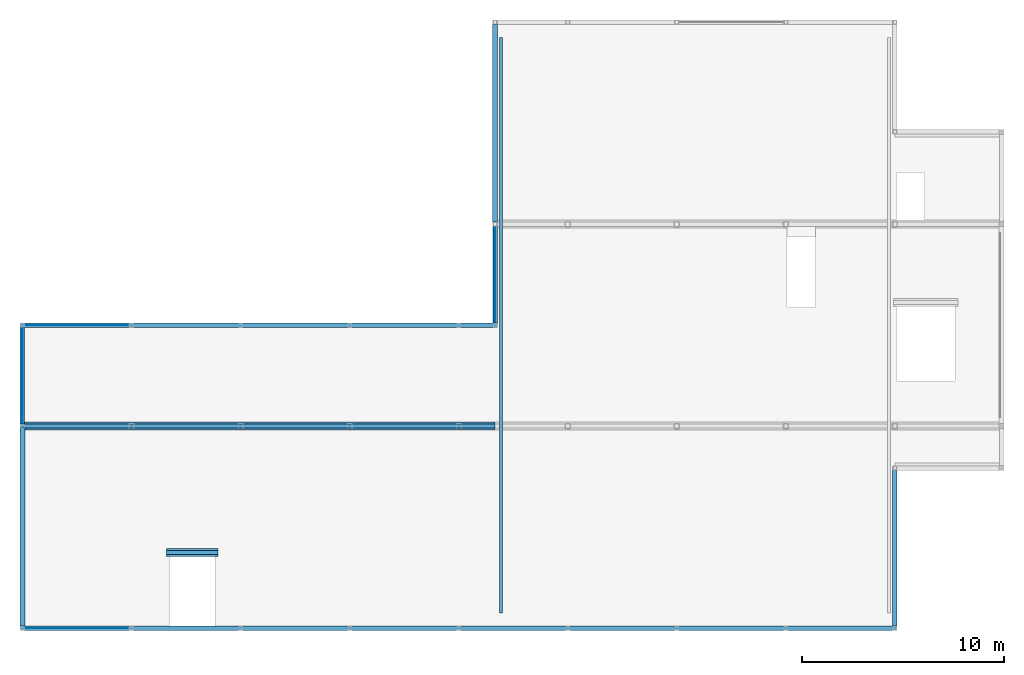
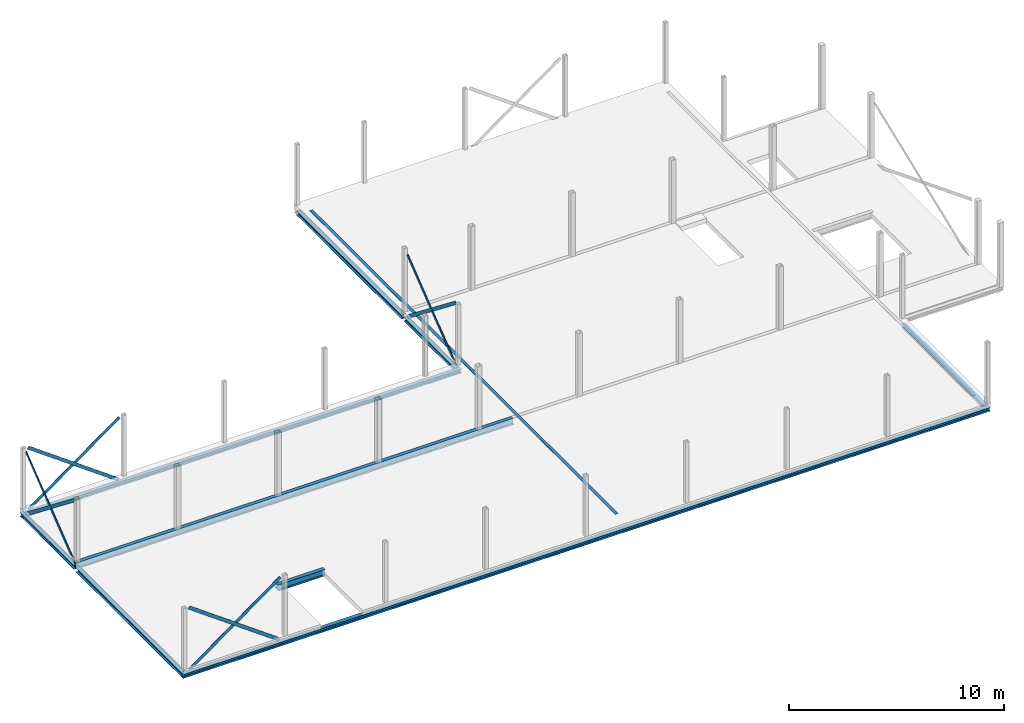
# One storey, part 6 of 7: 18 beams.
"""IFC2X3 building model written with IfcOpenShell, lengths in millimetres."""

from ifc_helpers import new_model, entity, si_unit, converted_unit, derived_unit, direction, frame, frame_2d, origin, origin_2d_with_axis, place, context, subcontext, project, spatial, polyline, circle_curve, parameter, trimmed, segment, composite_curve, rectangle, outline, extrude, boolean, material, type_object, element, save


model = new_model("IFC2X3")

# Units and contexts
model_context = context("Model", 3, precision=0.01, world=origin(), true_north=direction((6.123031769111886e-17, 1.0)))
body_context = subcontext(model_context, "Body", "Model", "MODEL_VIEW")
ifc_project = project(units=[si_unit("LENGTHUNIT", "METRE", prefix="MILLI"), si_unit("AREAUNIT", "SQUARE_METRE"), si_unit("VOLUMEUNIT", "CUBIC_METRE"), converted_unit("PLANEANGLEUNIT", "DEGREE", entity("IfcPlaneAngleMeasure", 0.017453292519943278), si_unit("PLANEANGLEUNIT", "RADIAN"), dimensions=[0, 0, 0, 0, 0, 0, 0]), si_unit("MASSUNIT", "GRAM", prefix="KILO"), derived_unit("MASSDENSITYUNIT", [(si_unit("MASSUNIT", "GRAM", prefix="KILO"), 1), (si_unit("LENGTHUNIT", "METRE"), -3)]), derived_unit("IONCONCENTRATIONUNIT", [(si_unit("MASSUNIT", "GRAM", prefix="KILO"), 1), (si_unit("LENGTHUNIT", "METRE"), -3)]), derived_unit("MOMENTOFINERTIAUNIT", [(si_unit("LENGTHUNIT", "METRE"), 4)]), si_unit("TIMEUNIT", "SECOND"), si_unit("FREQUENCYUNIT", "HERTZ"), si_unit("THERMODYNAMICTEMPERATUREUNIT", "DEGREE_CELSIUS"), derived_unit("THERMALTRANSMITTANCEUNIT", [(si_unit("MASSUNIT", "GRAM", prefix="KILO"), 1), (si_unit("THERMODYNAMICTEMPERATUREUNIT", "KELVIN"), -1), (si_unit("TIMEUNIT", "SECOND"), -3)]), derived_unit("THERMALCONDUCTANCEUNIT", [(si_unit("MASSUNIT", "GRAM", prefix="KILO"), 1), (si_unit("THERMODYNAMICTEMPERATUREUNIT", "KELVIN"), -1), (si_unit("TIMEUNIT", "SECOND"), -3), (si_unit("LENGTHUNIT", "METRE"), 1)]), derived_unit("VOLUMETRICFLOWRATEUNIT", [(si_unit("LENGTHUNIT", "METRE", prefix="DECI"), 3), (si_unit("TIMEUNIT", "SECOND"), -1)]), derived_unit("MASSFLOWRATEUNIT", [(si_unit("MASSUNIT", "GRAM", prefix="KILO"), 1), (si_unit("TIMEUNIT", "SECOND"), -1)]), derived_unit("ROTATIONALFREQUENCYUNIT", [(si_unit("TIMEUNIT", "SECOND"), -1)]), si_unit("ELECTRICCURRENTUNIT", "AMPERE"), si_unit("ELECTRICVOLTAGEUNIT", "VOLT"), si_unit("POWERUNIT", "WATT"), si_unit("FORCEUNIT", "NEWTON", prefix="KILO"), si_unit("ILLUMINANCEUNIT", "LUX"), si_unit("LUMINOUSFLUXUNIT", "LUMEN"), si_unit("LUMINOUSINTENSITYUNIT", "CANDELA"), si_unit("ENERGYUNIT", "JOULE"), derived_unit("USERDEFINED", [(si_unit("MASSUNIT", "GRAM", prefix="KILO"), -1), (si_unit("LENGTHUNIT", "METRE"), -2), (si_unit("TIMEUNIT", "SECOND"), 3), (si_unit("LUMINOUSFLUXUNIT", "LUMEN"), 1)]), derived_unit("USERDEFINED", [(si_unit("MASSUNIT", "GRAM", prefix="KILO"), 1), (si_unit("TIMEUNIT", "SECOND"), -3), (si_unit("LENGTHUNIT", "METRE"), 3), (si_unit("ELECTRICCURRENTUNIT", "AMPERE"), -2)]), derived_unit("SOUNDPOWERUNIT", [(si_unit("MASSUNIT", "GRAM", prefix="KILO"), 1), (si_unit("TIMEUNIT", "SECOND"), -3), (si_unit("LENGTHUNIT", "METRE"), 2)]), derived_unit("SOUNDPRESSUREUNIT", [(si_unit("MASSUNIT", "GRAM", prefix="KILO"), 1), (si_unit("LENGTHUNIT", "METRE"), -1), (si_unit("TIMEUNIT", "SECOND"), -2)]), derived_unit("LINEARVELOCITYUNIT", [(si_unit("LENGTHUNIT", "METRE"), 1), (si_unit("TIMEUNIT", "SECOND"), -1)]), si_unit("PRESSUREUNIT", "PASCAL"), derived_unit("USERDEFINED", [(si_unit("MASSUNIT", "GRAM", prefix="KILO"), 1), (si_unit("LENGTHUNIT", "METRE"), -2), (si_unit("TIMEUNIT", "SECOND"), -2)]), derived_unit("LINEARFORCEUNIT", [(si_unit("MASSUNIT", "GRAM", prefix="KILO"), 1), (si_unit("TIMEUNIT", "SECOND"), -2)]), derived_unit("PLANARFORCEUNIT", [(si_unit("MASSUNIT", "GRAM", prefix="KILO"), 1), (si_unit("LENGTHUNIT", "METRE"), -1), (si_unit("TIMEUNIT", "SECOND"), -2)]), derived_unit("SPECIFICHEATCAPACITYUNIT", [(si_unit("THERMODYNAMICTEMPERATUREUNIT", "KELVIN"), -1), (si_unit("LENGTHUNIT", "METRE"), 2), (si_unit("TIMEUNIT", "SECOND"), -2)]), derived_unit("HEATFLUXDENSITYUNIT", [(si_unit("MASSUNIT", "GRAM", prefix="KILO"), 1), (si_unit("TIMEUNIT", "SECOND"), -3)]), derived_unit("HEATINGVALUEUNIT", [(si_unit("LENGTHUNIT", "METRE"), 2), (si_unit("TIMEUNIT", "SECOND"), -2)]), derived_unit("VAPORPERMEABILITYUNIT", [(si_unit("LENGTHUNIT", "METRE"), -1), (si_unit("TIMEUNIT", "SECOND"), 1)]), derived_unit("DYNAMICVISCOSITYUNIT", [(si_unit("MASSUNIT", "GRAM", prefix="KILO"), 1), (si_unit("TIMEUNIT", "SECOND"), -1), (si_unit("LENGTHUNIT", "METRE"), -1)]), derived_unit("THERMALEXPANSIONCOEFFICIENTUNIT", [(si_unit("THERMODYNAMICTEMPERATUREUNIT", "KELVIN"), -1)]), derived_unit("MODULUSOFELASTICITYUNIT", [(si_unit("MASSUNIT", "GRAM", prefix="KILO"), 1), (si_unit("LENGTHUNIT", "METRE"), -1), (si_unit("TIMEUNIT", "SECOND"), -2)]), derived_unit("ISOTHERMALMOISTURECAPACITYUNIT", [(si_unit("MASSUNIT", "GRAM", prefix="KILO"), -1), (si_unit("LENGTHUNIT", "METRE"), 3)]), derived_unit("MOISTUREDIFFUSIVITYUNIT", [(si_unit("TIMEUNIT", "SECOND"), -1), (si_unit("LENGTHUNIT", "METRE"), 2)]), derived_unit("MASSPERLENGTHUNIT", [(si_unit("MASSUNIT", "GRAM", prefix="KILO"), 1), (si_unit("LENGTHUNIT", "METRE"), -1)]), derived_unit("THERMALRESISTANCEUNIT", [(si_unit("MASSUNIT", "GRAM", prefix="KILO"), -1), (si_unit("TIMEUNIT", "SECOND"), 3), (si_unit("THERMODYNAMICTEMPERATUREUNIT", "KELVIN"), 1)]), derived_unit("ACCELERATIONUNIT", [(si_unit("LENGTHUNIT", "METRE"), 1), (si_unit("TIMEUNIT", "SECOND"), -2)]), derived_unit("ANGULARVELOCITYUNIT", [(si_unit("TIMEUNIT", "SECOND"), -1), (si_unit("PLANEANGLEUNIT", "RADIAN"), 1)]), derived_unit("LINEARSTIFFNESSUNIT", [(si_unit("MASSUNIT", "GRAM", prefix="KILO"), 1), (si_unit("TIMEUNIT", "SECOND"), -2)]), derived_unit("WARPINGCONSTANTUNIT", [(si_unit("LENGTHUNIT", "METRE"), 6)]), derived_unit("LINEARMOMENTUNIT", [(si_unit("MASSUNIT", "GRAM", prefix="KILO"), 1), (si_unit("LENGTHUNIT", "METRE"), 1), (si_unit("TIMEUNIT", "SECOND"), -2)]), derived_unit("TORQUEUNIT", [(si_unit("MASSUNIT", "GRAM", prefix="KILO"), 1), (si_unit("LENGTHUNIT", "METRE"), 2), (si_unit("TIMEUNIT", "SECOND"), -2)])], contexts=[model_context])

# Site, building, storey
site_placement = place(None, origin())
site = spatial("IfcSite", under=ifc_project, at=site_placement, Name="Default", CompositionType="ELEMENT")
building_placement = place(site_placement, origin())
building = spatial("IfcBuilding", under=site, at=building_placement, CompositionType="ELEMENT")
storey_placement = place(building_placement, frame((0.0, 0.0, 4000.0)))
storey = spatial("IfcBuildingStorey", under=building, at=storey_placement, Name="01 eerste verdieping", CompositionType="ELEMENT", Elevation=4000.0000000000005)

# Beams
ifc_material = material(Name="VRI_staal")
beam_type_1 = type_object("IfcBeamType", Name="28_SFR_VRI_balk_staal_H:HEB220", PredefinedType="NOTDEFINED")
beam_1_placement = place(storey_placement, frame((10000.0, 25000.0, -345.0)))
element("IfcBeam", 1, at=beam_1_placement, inside=storey, type_object=beam_type_1, material=ifc_material, Name="28_SFR_VRI_balk_staal_H:HEB220", ObjectType="28_SFR_VRI_balk_staal_H:HEB220", context=body_context, shape_type="SweptSolid", body=[
    extrude(outline(composite_curve([segment(polyline([(94.0, -110.0), (110.0, -110.0)]), True, "CONTINUOUS"), segment(polyline([(110.0, -110.0), (110.0, 110.0)]), True, "CONTINUOUS"), segment(polyline([(110.0, 110.0), (94.0, 110.0)]), True, "CONTINUOUS"), segment(polyline([(94.0, 110.0), (94.0, 22.75000000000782)]), True, "CONTINUOUS"), segment(trimmed(circle_curve(frame_2d((76.0, 22.75000000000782), x_axis=(1.0, 0.0)), 18.0000000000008), [parameter(270.00000000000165)], [parameter(0.0)], True, "PARAMETER"), False, "CONTINUOUS"), segment(polyline([(76.0, 4.750000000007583), (-76.0, 4.750000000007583)]), True, "CONTINUOUS"), segment(trimmed(circle_curve(frame_2d((-76.0, 22.75000000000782), x_axis=(0.0, -1.0)), 18.00000000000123), [parameter(270.00000000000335)], [parameter(0.0)], True, "PARAMETER"), False, "CONTINUOUS"), segment(polyline([(-94.0, 22.75000000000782), (-94.0, 110.0)]), True, "CONTINUOUS"), segment(polyline([(-94.0, 110.0), (-110.0, 110.0)]), True, "CONTINUOUS"), segment(polyline([(-110.0, 110.0), (-110.0, -110.0)]), True, "CONTINUOUS"), segment(polyline([(-110.0, -110.0), (-94.0, -110.0)]), True, "CONTINUOUS"), segment(polyline([(-94.0, -110.0), (-94.0, -22.74999999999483)]), True, "CONTINUOUS"), segment(trimmed(circle_curve(frame_2d((-76.0, -22.749999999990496), x_axis=(-1.0, 0.0)), 18.000000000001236), [parameter(270.00000000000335)], [parameter(0.0)], True, "PARAMETER"), False, "CONTINUOUS"), segment(polyline([(-76.0, -4.749999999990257), (76.0, -4.749999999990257)]), True, "CONTINUOUS"), segment(trimmed(circle_curve(frame_2d((76.0, -22.749999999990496), x_axis=(0.0, 1.0)), 18.000000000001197), [parameter(270.00000000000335)], [parameter(0.0)], True, "PARAMETER"), False, "CONTINUOUS"), segment(polyline([(94.0, -22.749999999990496), (94.0, -110.0)]), True, "CONTINUOUS")], self_intersect=False)), frame((-120.0, 0.0, -110.0), z_axis=(1.0, 0.0, 0.0), x_axis=(0.0, 0.0, -1.0)), (0.0, 0.0, 1.0), 23639.999999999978),
])
beam_2_placement = place(storey_placement, frame((10000.0, 10000.0, -345.0)))
element("IfcBeam", 2, at=beam_2_placement, inside=storey, type_object=beam_type_1, material=ifc_material, Name="28_SFR_VRI_balk_staal_H:HEB220", ObjectType="28_SFR_VRI_balk_staal_H:HEB220", context=body_context, shape_type="SweptSolid", body=[
    extrude(outline(composite_curve([segment(polyline([(94.0, -110.0), (110.0, -110.0)]), True, "CONTINUOUS"), segment(polyline([(110.0, -110.0), (110.0, 110.0)]), True, "CONTINUOUS"), segment(polyline([(110.0, 110.0), (94.0, 110.0)]), True, "CONTINUOUS"), segment(polyline([(94.0, 110.0), (94.0, 22.749999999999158)]), True, "CONTINUOUS"), segment(trimmed(circle_curve(frame_2d((76.0, 22.750000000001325), x_axis=(1.0, 0.0)), 18.00000000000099), [parameter(270.0000000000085)], [parameter(0.0)], True, "PARAMETER"), False, "CONTINUOUS"), segment(polyline([(76.0, 4.74999999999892), (-76.0, 4.74999999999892)]), True, "CONTINUOUS"), segment(trimmed(circle_curve(frame_2d((-76.0, 22.750000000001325), x_axis=(0.0, -1.0)), 18.00000000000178), [parameter(270.000000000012)], [parameter(0.0)], True, "PARAMETER"), False, "CONTINUOUS"), segment(polyline([(-94.0, 22.749999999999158), (-94.0, 110.0)]), True, "CONTINUOUS"), segment(polyline([(-94.0, 110.0), (-110.0, 110.0)]), True, "CONTINUOUS"), segment(polyline([(-110.0, 110.0), (-110.0, -110.0)]), True, "CONTINUOUS"), segment(polyline([(-110.0, -110.0), (-94.0, -110.0)]), True, "CONTINUOUS"), segment(polyline([(-94.0, -110.0), (-94.0, -22.750000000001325)]), True, "CONTINUOUS"), segment(trimmed(circle_curve(frame_2d((-76.0, -22.750000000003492), x_axis=(-1.0, 0.0)), 18.000000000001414), [parameter(270.00000000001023)], [parameter(0.0)], True, "PARAMETER"), False, "CONTINUOUS"), segment(polyline([(-76.0, -4.750000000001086), (76.0, -4.750000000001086)]), True, "CONTINUOUS"), segment(trimmed(circle_curve(frame_2d((76.0, -22.750000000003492), x_axis=(0.0, 1.0)), 18.000000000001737), [parameter(270.000000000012)], [parameter(0.0)], True, "PARAMETER"), False, "CONTINUOUS"), segment(polyline([(94.0, -22.750000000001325), (94.0, -110.0)]), True, "CONTINUOUS")], self_intersect=False)), frame((-120.0, 0.0, -110.0), z_axis=(1.0, 0.0, 0.0), x_axis=(0.0, 0.0, -1.0)), (0.0, 0.0, 1.0), 43429.99999999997),
])
beam_3_placement = place(storey_placement, frame((53200.0, 17922.635463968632, -345.0), z_axis=(0.0, 0.0, 1.0), x_axis=(0.0, -1.0, 0.0)))
element("IfcBeam", 3, at=beam_3_placement, inside=storey, type_object=beam_type_1, material=ifc_material, Name="28_SFR_VRI_balk_staal_H:HEB220", ObjectType="28_SFR_VRI_balk_staal_H:HEB220", context=body_context, shape_type="SweptSolid", body=[
    extrude(outline(composite_curve([segment(polyline([(94.0, -110.0), (110.0, -110.0)]), True, "CONTINUOUS"), segment(polyline([(110.0, -110.0), (110.0, 110.0)]), True, "CONTINUOUS"), segment(polyline([(110.0, 110.0), (94.0, 110.0)]), True, "CONTINUOUS"), segment(polyline([(94.0, 110.0), (94.0, 22.749999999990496)]), True, "CONTINUOUS"), segment(trimmed(circle_curve(frame_2d((76.0, 22.749999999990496), x_axis=(1.0, 0.0)), 17.999999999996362), [parameter(269.99999999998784)], [parameter(0.0)], True, "PARAMETER"), False, "CONTINUOUS"), segment(polyline([(76.0, 4.749999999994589), (-76.0, 4.749999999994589)]), True, "CONTINUOUS"), segment(trimmed(circle_curve(frame_2d((-76.0, 22.749999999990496), x_axis=(0.0, -1.0)), 17.9999999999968), [parameter(269.9999999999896)], [parameter(0.0)], True, "PARAMETER"), False, "CONTINUOUS"), segment(polyline([(-94.0, 22.749999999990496), (-94.0, 110.0)]), True, "CONTINUOUS"), segment(polyline([(-94.0, 110.0), (-110.0, 110.0)]), True, "CONTINUOUS"), segment(polyline([(-110.0, 110.0), (-110.0, -110.0)]), True, "CONTINUOUS"), segment(polyline([(-110.0, -110.0), (-94.0, -110.0)]), True, "CONTINUOUS"), segment(polyline([(-94.0, -110.0), (-94.0, -22.750000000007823)]), True, "CONTINUOUS"), segment(trimmed(circle_curve(frame_2d((-76.0, -22.750000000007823), x_axis=(-1.0, 0.0)), 17.9999999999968), [parameter(269.9999999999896)], [parameter(0.0)], True, "PARAMETER"), False, "CONTINUOUS"), segment(polyline([(-76.0, -4.750000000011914), (76.0, -4.750000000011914)]), True, "CONTINUOUS"), segment(trimmed(circle_curve(frame_2d((76.0, -22.750000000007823), x_axis=(0.0, 1.0)), 17.999999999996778), [parameter(269.9999999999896)], [parameter(0.0)], True, "PARAMETER"), False, "CONTINUOUS"), segment(polyline([(94.0, -22.750000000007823), (94.0, -110.0)]), True, "CONTINUOUS")], self_intersect=False)), frame((97.63546399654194, 0.0, -110.0), z_axis=(1.0, 0.0, 0.0), x_axis=(0.0, 0.0, -1.0)), (0.0, 0.0, 1.0), 7714.9999999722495),
])
beam_4_placement = place(storey_placement, frame((33400.0, 30000.0, -345.0), z_axis=(0.0, 0.0, 1.0), x_axis=(0.0, -1.0, 0.0)))
element("IfcBeam", 4, at=beam_4_placement, inside=storey, type_object=beam_type_1, material=ifc_material, Name="28_SFR_VRI_balk_staal_H:HEB220", ObjectType="28_SFR_VRI_balk_staal_H:HEB220", context=body_context, shape_type="SweptSolid", body=[
    extrude(outline(composite_curve([segment(polyline([(94.0, -110.0), (110.0, -110.0)]), True, "CONTINUOUS"), segment(polyline([(110.0, -110.0), (110.0, 110.0)]), True, "CONTINUOUS"), segment(polyline([(110.0, 110.0), (94.0, 110.0)]), True, "CONTINUOUS"), segment(polyline([(94.0, 110.0), (94.0, 22.749999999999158)]), True, "CONTINUOUS"), segment(trimmed(circle_curve(frame_2d((76.0, 22.749999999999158), x_axis=(1.0, 0.0)), 18.0000000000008), [parameter(270.00000000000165)], [parameter(0.0)], True, "PARAMETER"), False, "CONTINUOUS"), segment(polyline([(76.0, 4.74999999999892), (-76.0, 4.74999999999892)]), True, "CONTINUOUS"), segment(trimmed(circle_curve(frame_2d((-76.0, 22.749999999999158), x_axis=(0.0, -1.0)), 18.00000000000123), [parameter(270.00000000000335)], [parameter(0.0)], True, "PARAMETER"), False, "CONTINUOUS"), segment(polyline([(-94.0, 22.749999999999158), (-94.0, 110.0)]), True, "CONTINUOUS"), segment(polyline([(-94.0, 110.0), (-110.0, 110.0)]), True, "CONTINUOUS"), segment(polyline([(-110.0, 110.0), (-110.0, -110.0)]), True, "CONTINUOUS"), segment(polyline([(-110.0, -110.0), (-94.0, -110.0)]), True, "CONTINUOUS"), segment(polyline([(-94.0, -110.0), (-94.0, -22.74999999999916)]), True, "CONTINUOUS"), segment(trimmed(circle_curve(frame_2d((-76.0, -22.74999999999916), x_axis=(-1.0, 0.0)), 18.000000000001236), [parameter(270.00000000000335)], [parameter(0.0)], True, "PARAMETER"), False, "CONTINUOUS"), segment(polyline([(-76.0, -4.74999999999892), (76.0, -4.74999999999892)]), True, "CONTINUOUS"), segment(trimmed(circle_curve(frame_2d((76.0, -22.74999999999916), x_axis=(0.0, 1.0)), 18.000000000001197), [parameter(270.00000000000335)], [parameter(0.0)], True, "PARAMETER"), False, "CONTINUOUS"), segment(polyline([(94.0, -22.74999999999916), (94.0, -110.0)]), True, "CONTINUOUS")], self_intersect=False)), frame((100.0, 0.0, -110.0), z_axis=(1.0, 0.0, 0.0), x_axis=(0.0, 0.0, -1.0)), (0.0, 0.0, 1.0), 4790.000000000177),
])
beam_5_placement = place(storey_placement, frame((10000.0, 25000.0, -345.0), z_axis=(0.0, 0.0, 1.0), x_axis=(0.0, -1.0, 0.0)))
element("IfcBeam", 5, at=beam_5_placement, inside=storey, type_object=beam_type_1, material=ifc_material, Name="28_SFR_VRI_balk_staal_H:HEB220", ObjectType="28_SFR_VRI_balk_staal_H:HEB220", context=body_context, shape_type="SweptSolid", body=[
    extrude(outline(composite_curve([segment(polyline([(94.0, -110.0), (110.0, -110.0)]), True, "CONTINUOUS"), segment(polyline([(110.0, -110.0), (110.0, 110.0)]), True, "CONTINUOUS"), segment(polyline([(110.0, 110.0), (94.0, 110.0)]), True, "CONTINUOUS"), segment(polyline([(94.0, 110.0), (94.0, 22.750000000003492)]), True, "CONTINUOUS"), segment(trimmed(circle_curve(frame_2d((76.0, 22.750000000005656), x_axis=(1.0, 0.0)), 18.00000000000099), [parameter(270.0000000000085)], [parameter(0.0)], True, "PARAMETER"), False, "CONTINUOUS"), segment(polyline([(76.0, 4.750000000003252), (-76.0, 4.750000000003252)]), True, "CONTINUOUS"), segment(trimmed(circle_curve(frame_2d((-76.0, 22.750000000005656), x_axis=(0.0, -1.0)), 18.00000000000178), [parameter(270.000000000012)], [parameter(0.0)], True, "PARAMETER"), False, "CONTINUOUS"), segment(polyline([(-94.0, 22.750000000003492), (-94.0, 110.0)]), True, "CONTINUOUS"), segment(polyline([(-94.0, 110.0), (-110.0, 110.0)]), True, "CONTINUOUS"), segment(polyline([(-110.0, 110.0), (-110.0, -110.0)]), True, "CONTINUOUS"), segment(polyline([(-110.0, -110.0), (-94.0, -110.0)]), True, "CONTINUOUS"), segment(polyline([(-94.0, -110.0), (-94.0, -22.749999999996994)]), True, "CONTINUOUS"), segment(trimmed(circle_curve(frame_2d((-76.0, -22.749999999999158), x_axis=(-1.0, 0.0)), 18.000000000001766), [parameter(270.000000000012)], [parameter(0.0)], True, "PARAMETER"), False, "CONTINUOUS"), segment(polyline([(-76.0, -4.749999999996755), (76.0, -4.749999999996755)]), True, "CONTINUOUS"), segment(trimmed(circle_curve(frame_2d((76.0, -22.749999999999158), x_axis=(0.0, 1.0)), 18.000000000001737), [parameter(270.000000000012)], [parameter(0.0)], True, "PARAMETER"), False, "CONTINUOUS"), segment(polyline([(94.0, -22.749999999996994), (94.0, -110.0)]), True, "CONTINUOUS")], self_intersect=False)), frame((110.0, 0.0, -110.0), z_axis=(1.0, 0.0, 0.0), x_axis=(0.0, 0.0, -1.0)), (0.0, 0.0, 1.0), 4789.999999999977),
])
beam_type_2 = type_object("IfcBeamType", Name="28_SFR_VRI_balk_staal_THQ:THQ265x6-190x20-400x20", PredefinedType="NOTDEFINED")
beam_6_placement = place(storey_placement, frame((10000.0, 20000.0, -80.0)))
element("IfcBeam", 6, at=beam_6_placement, inside=storey, type_object=beam_type_2, material=ifc_material, Name="28_SFR_VRI_balk_staal_THQ:THQ265x6-190x20-400x20", ObjectType="28_SFR_VRI_balk_staal_THQ:THQ265x6-190x20-400x20", context=body_context, shape_type="SweptSolid", body=[
    boolean("DIFFERENCE", extrude(outline(polyline([(61.250000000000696, -200.0), (81.24999999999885, -200.0), (81.24999999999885, 200.0), (61.24999999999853, 200.0), (61.24999999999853, 101.0), (-203.74999999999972, 101.0), (-203.74999999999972, -101.0), (61.250000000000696, -101.0), (61.250000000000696, -200.0)])), frame((-120.0, 0.0, -203.75000000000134), z_axis=(1.0, 0.0, 0.0), x_axis=(0.0, 0.0, -1.0)), (0.0, 0.0, 1.0), 23519.999999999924), extrude(rectangle(XDim=245.00000000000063, YDim=190.0000000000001, at=frame_2d((0.0, 0.0), x_axis=(0.0, 1.0))), frame((23400.0, 0.0, -142.50000000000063), z_axis=(-1.0, 0.0, 0.0), x_axis=(0.0, 1.0, 0.0)), (0.0, 0.0, 1.0), 23519.999999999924)),
])
beam_type_3 = type_object("IfcBeamType", Name="28_SFR_VRI_balk_staal_THQ:THQ265x8-190x20-400x20", PredefinedType="NOTDEFINED")
beam_7_placement = place(storey_placement, frame((17200.0, 13753.0, -80.0)))
element("IfcBeam", 7, at=beam_7_placement, inside=storey, type_object=beam_type_3, material=ifc_material, Name="28_SFR_VRI_balk_staal_THQ:THQ265x8-190x20-400x20", ObjectType="28_SFR_VRI_balk_staal_THQ:THQ265x8-190x20-400x20", context=body_context, shape_type="SweptSolid", body=[
    boolean("DIFFERENCE", extrude(outline(polyline([(61.250000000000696, -200.0), (81.24999999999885, -200.0), (81.24999999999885, 200.0), (61.24999999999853, 200.0), (61.24999999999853, 103.0), (-203.74999999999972, 103.0), (-203.74999999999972, -103.0), (61.250000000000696, -103.0), (61.250000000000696, -200.0)])), frame((-75.0, 0.0, -203.75000000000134), z_axis=(1.0, 0.0, 0.0), x_axis=(0.0, 0.0, -1.0)), (0.0, 0.0, 1.0), 2549.9999999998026), extrude(rectangle(XDim=245.00000000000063, YDim=190.0000000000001, at=frame_2d((0.0, 0.0), x_axis=(0.0, 1.0))), frame((2475.0, 0.0, -142.50000000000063), z_axis=(-1.0, 0.0, 0.0), x_axis=(0.0, 1.0, 0.0)), (0.0, 0.0, 1.0), 2549.9999999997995)),
])
beam_type_4 = type_object("IfcBeamType", Name="28_SFR_VRI_balk_staal_H:HEB240", PredefinedType="NOTDEFINED")
beam_8_placement = place(storey_placement, frame((33400.0, 40000.0, -345.0), z_axis=(0.0, 0.0, 1.0), x_axis=(0.0, -1.0, 0.0)))
element("IfcBeam", 8, at=beam_8_placement, inside=storey, type_object=beam_type_4, material=ifc_material, Name="28_SFR_VRI_balk_staal_H:HEB240", ObjectType="28_SFR_VRI_balk_staal_H:HEB240", context=body_context, shape_type="SweptSolid", body=[
    extrude(outline(composite_curve([segment(polyline([(103.0, -120.0), (120.0, -120.0)]), True, "CONTINUOUS"), segment(polyline([(120.0, -120.0), (120.0, 120.0)]), True, "CONTINUOUS"), segment(polyline([(120.0, 120.0), (103.0, 120.0)]), True, "CONTINUOUS"), segment(polyline([(103.0, 120.0), (103.0, 26.0)]), True, "CONTINUOUS"), segment(trimmed(circle_curve(frame_2d((82.0, 26.0), x_axis=(1.0, 0.0)), 21.000000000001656), [parameter(270.0000000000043)], [parameter(0.0)], True, "PARAMETER"), False, "CONTINUOUS"), segment(polyline([(82.0, 5.0), (-82.0, 5.0)]), True, "CONTINUOUS"), segment(trimmed(circle_curve(frame_2d((-82.0, 26.0), x_axis=(0.0, -1.0)), 21.00000000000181), [parameter(270.0000000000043)], [parameter(0.0)], True, "PARAMETER"), False, "CONTINUOUS"), segment(polyline([(-103.0, 26.0), (-103.0, 120.0)]), True, "CONTINUOUS"), segment(polyline([(-103.0, 120.0), (-120.0, 120.0)]), True, "CONTINUOUS"), segment(polyline([(-120.0, 120.0), (-120.0, -120.0)]), True, "CONTINUOUS"), segment(polyline([(-120.0, -120.0), (-103.0, -120.0)]), True, "CONTINUOUS"), segment(polyline([(-103.0, -120.0), (-103.0, -26.0)]), True, "CONTINUOUS"), segment(trimmed(circle_curve(frame_2d((-82.0, -26.0), x_axis=(-1.0, 0.0)), 21.000000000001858), [parameter(270.0000000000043)], [parameter(0.0)], True, "PARAMETER"), False, "CONTINUOUS"), segment(polyline([(-82.0, -5.0), (82.0, -5.0)]), True, "CONTINUOUS"), segment(trimmed(circle_curve(frame_2d((82.0, -26.0), x_axis=(0.0, 1.0)), 20.999999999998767), [parameter(269.999999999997)], [parameter(0.0)], True, "PARAMETER"), False, "CONTINUOUS"), segment(polyline([(103.0, -26.0), (103.0, -120.0)]), True, "CONTINUOUS")], self_intersect=False)), frame((110.0, 0.0, -120.0), z_axis=(1.0, 0.0, 0.0), x_axis=(0.0, 0.0, -1.0)), (0.0, 0.0, 1.0), 9790.000000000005),
])
beam_9_placement = place(storey_placement, frame((10000.0, 10000.0, -345.0), z_axis=(0.0, 0.0, 1.0), x_axis=(0.0, 1.0, 0.0)))
element("IfcBeam", 9, at=beam_9_placement, inside=storey, type_object=beam_type_4, material=ifc_material, Name="28_SFR_VRI_balk_staal_H:HEB240", ObjectType="28_SFR_VRI_balk_staal_H:HEB240", context=body_context, shape_type="SweptSolid", body=[
    extrude(outline(composite_curve([segment(polyline([(103.0, -120.0), (120.0, -120.0)]), True, "CONTINUOUS"), segment(polyline([(120.0, -120.0), (120.0, 120.0)]), True, "CONTINUOUS"), segment(polyline([(120.0, 120.0), (103.0, 120.0)]), True, "CONTINUOUS"), segment(polyline([(103.0, 120.0), (103.0, 26.0)]), True, "CONTINUOUS"), segment(trimmed(circle_curve(frame_2d((82.0, 26.0), x_axis=(1.0, 0.0)), 20.999999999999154), [parameter(269.999999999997)], [parameter(0.0)], True, "PARAMETER"), False, "CONTINUOUS"), segment(polyline([(82.0, 5.0), (-82.0, 5.0)]), True, "CONTINUOUS"), segment(trimmed(circle_curve(frame_2d((-82.0, 26.0), x_axis=(0.0, -1.0)), 20.999999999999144), [parameter(269.999999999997)], [parameter(0.0)], True, "PARAMETER"), False, "CONTINUOUS"), segment(polyline([(-103.0, 26.0), (-103.0, 120.0)]), True, "CONTINUOUS"), segment(polyline([(-103.0, 120.0), (-120.0, 120.0)]), True, "CONTINUOUS"), segment(polyline([(-120.0, 120.0), (-120.0, -120.0)]), True, "CONTINUOUS"), segment(polyline([(-120.0, -120.0), (-103.0, -120.0)]), True, "CONTINUOUS"), segment(polyline([(-103.0, -120.0), (-103.0, -26.0)]), True, "CONTINUOUS"), segment(trimmed(circle_curve(frame_2d((-82.0, -26.0), x_axis=(-1.0, 0.0)), 20.99999999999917), [parameter(269.999999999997)], [parameter(0.0)], True, "PARAMETER"), False, "CONTINUOUS"), segment(polyline([(-82.0, -5.0), (82.0, -5.0)]), True, "CONTINUOUS"), segment(trimmed(circle_curve(frame_2d((82.0, -26.0), x_axis=(0.0, 1.0)), 20.999999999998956), [parameter(269.999999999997)], [parameter(0.0)], True, "PARAMETER"), False, "CONTINUOUS"), segment(polyline([(103.0, -26.0), (103.0, -120.0)]), True, "CONTINUOUS")], self_intersect=False)), frame((110.0, 0.0, -120.0), z_axis=(1.0, 0.0, 0.0), x_axis=(0.0, 0.0, -1.0)), (0.0, 0.0, 1.0), 9790.000000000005),
])
beam_type_5 = type_object("IfcBeamType", Name="28_SFR_VRI_balk_staal_strip:10x180", PredefinedType="NOTDEFINED")
beam_10_placement = place(storey_placement, frame((10000.0, 20000.0, 3445.0), z_axis=(0.0, 0.6160108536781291, 0.7877376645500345), x_axis=(0.0, 0.7877376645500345, -0.6160108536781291)))
element("IfcBeam", 10, at=beam_10_placement, inside=storey, type_object=beam_type_5, material=ifc_material, Name="28_SFR_VRI_balk_staal_strip:10x180", ObjectType="28_SFR_VRI_balk_staal_strip:10x180", context=body_context, shape_type="SweptSolid", body=[
    extrude(rectangle(XDim=179.99999999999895, YDim=9.999999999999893, at=frame_2d((-2.6147972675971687e-12, -1.0831335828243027e-12), x_axis=(1.0, 0.0))), frame((300.0, 0.0, 0.0), z_axis=(1.0, 0.0, 0.0), x_axis=(0.0, 0.0, -1.0)), (0.0, 0.0, 1.0), 5747.290760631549),
])
beam_11_placement = place(storey_placement, frame((10000.0, 25000.0, 3445.0), z_axis=(0.0, -0.6160108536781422, 0.7877376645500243), x_axis=(0.0, -0.7877376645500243, -0.6160108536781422)))
element("IfcBeam", 11, at=beam_11_placement, inside=storey, type_object=beam_type_5, material=ifc_material, Name="28_SFR_VRI_balk_staal_strip:10x180", ObjectType="28_SFR_VRI_balk_staal_strip:10x180", context=body_context, shape_type="SweptSolid", body=[
    extrude(rectangle(XDim=180.00000000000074, YDim=9.999999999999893, at=frame_2d((0.0, -1.0831335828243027e-12), x_axis=(1.0, 0.0))), frame((300.0, 0.0, 0.0), z_axis=(1.0, 0.0, 0.0), x_axis=(0.0, 0.0, -1.0)), (0.0, 0.0, 1.0), 5747.2907606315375),
])
beam_12_placement = place(storey_placement, frame((10000.0, 25000.0, 3455.0), z_axis=(0.5864758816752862, 0.0, 0.809966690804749), x_axis=(0.809966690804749, 0.0, -0.5864758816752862)))
element("IfcBeam", 12, at=beam_12_placement, inside=storey, type_object=beam_type_5, material=ifc_material, Name="28_SFR_VRI_balk_staal_strip:10x180", ObjectType="28_SFR_VRI_balk_staal_strip:10x180", context=body_context, shape_type="SweptSolid", body=[
    extrude(rectangle(XDim=180.00000000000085, YDim=10.000000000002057, at=frame_2d((1.0800249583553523e-12, -2.1658230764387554e-12), x_axis=(1.0, 0.0))), frame((300.0, 0.0, 0.0), z_axis=(1.0, 0.0, 0.0), x_axis=(0.0, 0.0, -1.0)), (0.0, 0.0, 1.0), 6016.9408276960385),
])
beam_13_placement = place(storey_placement, frame((15400.0, 25000.0, 3455.0), z_axis=(-0.5864758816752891, 0.0, 0.8099666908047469), x_axis=(-0.8099666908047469, 0.0, -0.5864758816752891)))
element("IfcBeam", 13, at=beam_13_placement, inside=storey, type_object=beam_type_5, material=ifc_material, Name="28_SFR_VRI_balk_staal_strip:10x180", ObjectType="28_SFR_VRI_balk_staal_strip:10x180", context=body_context, shape_type="SweptSolid", body=[
    extrude(rectangle(XDim=180.00000000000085, YDim=9.999999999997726, at=frame_2d((1.0729195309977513e-12, 0.0), x_axis=(1.0, 0.0))), frame((300.0, 0.0, 0.0), z_axis=(1.0, 0.0, 0.0), x_axis=(0.0, 0.0, -1.0)), (0.0, 0.0, 1.0), 6016.940827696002),
])
beam_14_placement = place(storey_placement, frame((10000.0, 10000.0, 3455.0), z_axis=(0.5864758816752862, 0.0, 0.809966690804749), x_axis=(0.809966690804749, 0.0, -0.5864758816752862)))
element("IfcBeam", 14, at=beam_14_placement, inside=storey, type_object=beam_type_5, material=ifc_material, Name="28_SFR_VRI_balk_staal_strip:10x180", ObjectType="28_SFR_VRI_balk_staal_strip:10x180", context=body_context, shape_type="SweptSolid", body=[
    extrude(rectangle(XDim=180.00000000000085, YDim=9.999999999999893, at=frame_2d((-1.0800249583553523e-12, -1.0831335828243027e-12), x_axis=(1.0, 0.0))), frame((300.0, 0.0, 0.0), z_axis=(1.0, 0.0, 0.0), x_axis=(0.0, 0.0, -1.0)), (0.0, 0.0, 1.0), 6016.9408276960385),
])
beam_15_placement = place(storey_placement, frame((15400.0, 10000.0, 3455.0), z_axis=(-0.5864758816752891, 0.0, 0.8099666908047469), x_axis=(-0.8099666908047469, 0.0, -0.5864758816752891)))
element("IfcBeam", 15, at=beam_15_placement, inside=storey, type_object=beam_type_5, material=ifc_material, Name="28_SFR_VRI_balk_staal_strip:10x180", ObjectType="28_SFR_VRI_balk_staal_strip:10x180", context=body_context, shape_type="SweptSolid", body=[
    extrude(rectangle(XDim=180.0, YDim=9.999999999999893, at=frame_2d((1.5134560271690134e-12, -1.0831335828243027e-12), x_axis=(1.0, 0.0))), frame((300.0, 0.0, 0.0), z_axis=(1.0, 0.0, 0.0), x_axis=(0.0, 0.0, -1.0)), (0.0, 0.0, 1.0), 6016.940827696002),
])
beam_16_placement = place(storey_placement, frame((33400.0, 25000.0, 3445.0), z_axis=(0.0, 0.6160108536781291, 0.7877376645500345), x_axis=(0.0, 0.7877376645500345, -0.6160108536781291)))
element("IfcBeam", 16, at=beam_16_placement, inside=storey, type_object=beam_type_5, material=ifc_material, Name="28_SFR_VRI_balk_staal_strip:10x180", ObjectType="28_SFR_VRI_balk_staal_strip:10x180", context=body_context, shape_type="SweptSolid", body=[
    extrude(rectangle(XDim=179.99999999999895, YDim=10.000000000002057, at=frame_2d((-2.6147972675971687e-12, -2.1658230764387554e-12), x_axis=(1.0, 0.0))), frame((300.0, 0.0, 0.0), z_axis=(1.0, 0.0, 0.0), x_axis=(0.0, 0.0, -1.0)), (0.0, 0.0, 1.0), 5747.290760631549),
])
beam_17_placement = place(storey_placement, frame((33400.0, 30000.0, 3445.0), z_axis=(0.0, -0.6160108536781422, 0.7877376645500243), x_axis=(0.0, -0.7877376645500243, -0.6160108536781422)))
element("IfcBeam", 17, at=beam_17_placement, inside=storey, type_object=beam_type_5, material=ifc_material, Name="28_SFR_VRI_balk_staal_strip:10x180", ObjectType="28_SFR_VRI_balk_staal_strip:10x180", context=body_context, shape_type="SweptSolid", body=[
    extrude(rectangle(XDim=180.00000000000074, YDim=9.999999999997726, at=frame_2d((0.0, 4.331646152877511e-12), x_axis=(1.0, 0.0))), frame((300.0, 0.0, 0.0), z_axis=(1.0, 0.0, 0.0), x_axis=(0.0, 0.0, -1.0)), (0.0, 0.0, 1.0), 5747.2907606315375),
])
beam_type_6 = type_object("IfcBeamType", Name="28_SFR_VRI_balk_staal_strip:160x5", PredefinedType="NOTDEFINED")
beam_18_placement = place(storey_placement, frame((33700.0, 10750.0, -70.0), z_axis=(0.0, 0.0, 1.0), x_axis=(0.0, 1.0, 0.0)))
element("IfcBeam", 18, at=beam_18_placement, inside=storey, type_object=beam_type_6, material=ifc_material, Name="28_SFR_VRI_balk_staal_strip:160x5", ObjectType="28_SFR_VRI_balk_staal_strip:160x5", context=body_context, shape_type="SweptSolid", body=[
    extrude(rectangle(XDim=4.999999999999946, YDim=159.99999999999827, at=origin_2d_with_axis()), frame((0.0, 0.0, -2.5000000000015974), z_axis=(1.0, 0.0, 0.0), x_axis=(0.0, 0.0, -1.0)), (0.0, 0.0, 1.0), 28500.0),
])

save(model, "model.ifc")
